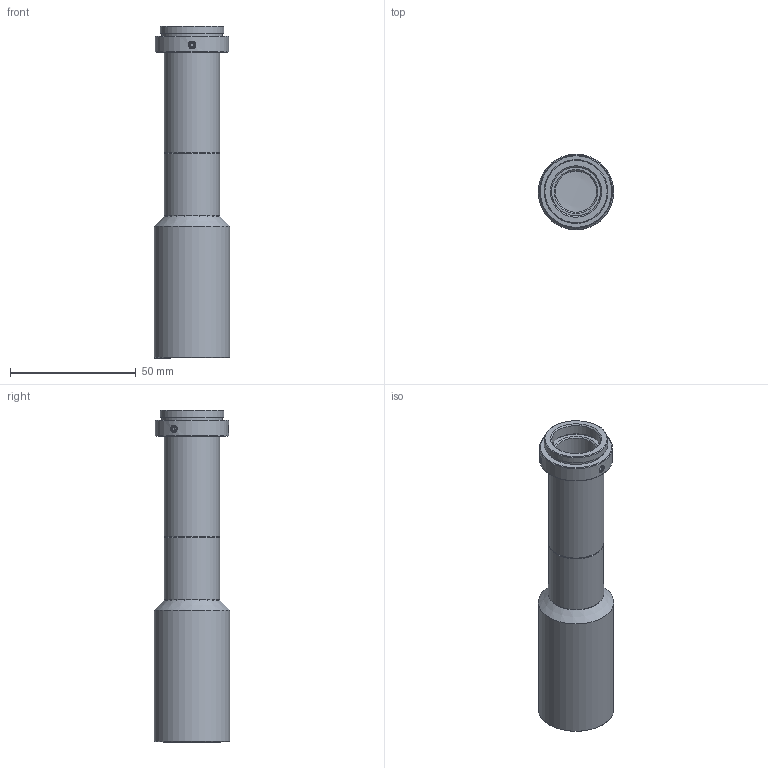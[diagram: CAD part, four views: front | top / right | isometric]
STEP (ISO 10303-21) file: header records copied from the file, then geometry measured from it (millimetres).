
FILE_DESCRIPTION(('STEP AP214'),'1');
FILE_NAME('RTK-1-M110.stp','2026-08-03T02:10:32',(' '),(' '),'Spatial InterOp 3D',' ',' ');
FILE_SCHEMA(('AUTOMOTIVE_DESIGN { 1 0 10303 214 1 1 1 1 }'));
Length unit declared in the file: metre
Products named in the file (2): RTK-1-M110; Component1
Assembly tree (1 placements, depth 2):
  RTK-1-M110
    Component1
Bounding box: 30 x 30 x 131.77 mm (x, y, z)
Volume: 19238 mm3; surface area: 22345.7 mm2
Topology: 1 solids, 1 shells, 106 faces, 260 edges, 173 vertices
Faces by surface type: plane 43, cone 40, cylinder 18, bspline 3, sphere 2
Full cylindrical faces by diameter (mm): 2.5 x3, 16.4 x1, 17.4 x1, 19 x1, 19.4 x1, 22 x2, 22.5 x1, 24 x1, 24.12 x1, 25.32 x1, 27 x2, 28 x1, 29 x1, 30 x1
Entity records: 4022 total; most frequent: CARTESIAN_POINT 915, DIRECTION 450, ORIENTED_EDGE 398, EDGE_CURVE 199, AXIS2_PLACEMENT_3D 181, EDGE_LOOP 164, VERTEX_POINT 153, FACE_OUTER_BOUND 127
